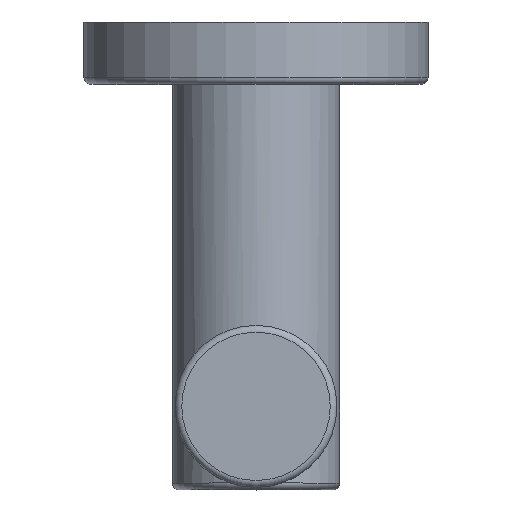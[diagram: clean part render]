
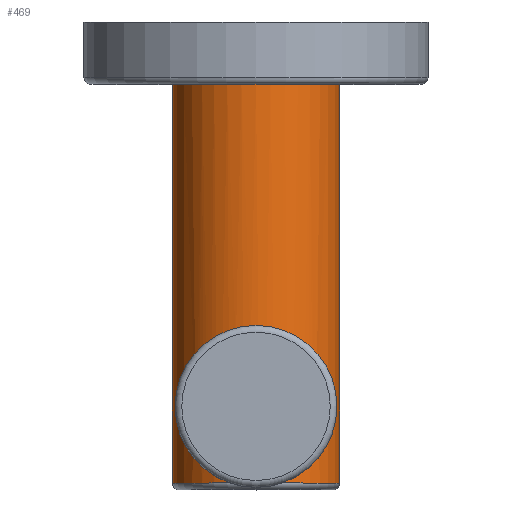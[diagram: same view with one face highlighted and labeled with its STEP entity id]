
A CAD part, top view. The second image highlights one B-rep face of the part: STEP entity #469.
In plain terms, the highlighted cylindrical face has radius 12.4 mm (diameter 24.8 mm), a full revolution.
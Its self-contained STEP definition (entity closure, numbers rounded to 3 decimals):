
#97=B_SPLINE_CURVE_WITH_KNOTS('',3,(#2220,#2221,#2222,#2223,#2224,#2225,
#2226,#2227,#2228,#2229,#2230,#2231,#2232,#2233,#2234,#2235,#2236,#2237,
#2238,#2239,#2240,#2241,#2242,#2243,#2244,#2245),.UNSPECIFIED.,.T.,.F.,(2,
2,2,2,2,2,2,2,2,2,2,2,2,2,2),(-0.062,0.,0.125,0.188,
0.25,0.375,0.438,0.5,
0.563,0.625,0.75,0.875,
0.938,1.,1.125),.UNSPECIFIED.);
#469=ADVANCED_FACE('',(#534,#535,#536),#500,.T.);
#500=CYLINDRICAL_SURFACE('',#1472,12.4);
#534=FACE_BOUND('',#632,.T.);
#535=FACE_BOUND('',#633,.T.);
#536=FACE_BOUND('',#634,.T.);
#632=EDGE_LOOP('',(#964));
#633=EDGE_LOOP('',(#965));
#634=EDGE_LOOP('',(#966));
#964=ORIENTED_EDGE('',*,*,#1242,.F.);
#965=ORIENTED_EDGE('',*,*,#1248,.F.);
#966=ORIENTED_EDGE('',*,*,#1247,.T.);
#1076=VERTEX_POINT('',#2201);
#1081=VERTEX_POINT('',#2218);
#1082=VERTEX_POINT('',#2246);
#1242=EDGE_CURVE('',#1076,#1076,#1318,.T.);
#1247=EDGE_CURVE('',#1081,#1081,#1323,.T.);
#1248=EDGE_CURVE('',#1082,#1082,#97,.T.);
#1318=CIRCLE('',#1457,12.4);
#1323=CIRCLE('',#1469,12.4);
#1457=AXIS2_PLACEMENT_3D('',#2200,#1831,#1832);
#1469=AXIS2_PLACEMENT_3D('',#2217,#1855,#1856);
#1472=AXIS2_PLACEMENT_3D('',#2248,#1861,#1862);
#1831=DIRECTION('',(0.,1.,0.));
#1832=DIRECTION('',(1.,0.,0.));
#1855=DIRECTION('',(0.,1.,0.));
#1856=DIRECTION('',(-1.,0.,0.));
#1861=DIRECTION('',(0.,1.,0.));
#1862=DIRECTION('',(1.,0.,0.));
#2200=CARTESIAN_POINT('',(629.5,29.1,-8.5));
#2201=CARTESIAN_POINT('',(641.9,29.1,-8.5));
#2217=CARTESIAN_POINT('',(629.5,-30.,-8.5));
#2218=CARTESIAN_POINT('',(617.1,-30.,-8.5));
#2220=CARTESIAN_POINT('',(620.5,-17.556,0.03));
#2221=CARTESIAN_POINT('',(620.5,-21.288,0.03));
#2222=CARTESIAN_POINT('',(621.507,-23.515,1.16));
#2223=CARTESIAN_POINT('',(623.892,-25.93,2.598));
#2224=CARTESIAN_POINT('',(624.841,-26.591,3.047));
#2225=CARTESIAN_POINT('',(627.011,-27.529,3.7));
#2226=CARTESIAN_POINT('',(628.241,-27.796,3.897));
#2227=CARTESIAN_POINT('',(631.934,-27.808,3.906));
#2228=CARTESIAN_POINT('',(634.271,-26.765,3.098));
#2229=CARTESIAN_POINT('',(636.683,-24.34,1.651));
#2230=CARTESIAN_POINT('',(637.321,-23.403,1.142));
#2231=CARTESIAN_POINT('',(638.233,-21.265,0.324));
#2232=CARTESIAN_POINT('',(638.497,-20.056,0.033));
#2233=CARTESIAN_POINT('',(638.503,-17.592,0.026));
#2234=CARTESIAN_POINT('',(638.242,-16.367,0.315));
#2235=CARTESIAN_POINT('',(637.342,-14.234,1.125));
#2236=CARTESIAN_POINT('',(636.7,-13.283,1.638));
#2237=CARTESIAN_POINT('',(634.321,-10.872,3.074));
#2238=CARTESIAN_POINT('',(632.013,-9.808,3.895));
#2239=CARTESIAN_POINT('',(627.042,-9.793,3.905));
#2240=CARTESIAN_POINT('',(624.719,-10.843,3.093));
#2241=CARTESIAN_POINT('',(622.315,-13.262,1.649));
#2242=CARTESIAN_POINT('',(621.679,-14.196,1.142));
#2243=CARTESIAN_POINT('',(620.762,-16.348,0.32));
#2244=CARTESIAN_POINT('',(620.5,-17.556,0.03));
#2245=CARTESIAN_POINT('',(620.5,-21.288,0.03));
#2246=CARTESIAN_POINT('',(620.5,-18.8,0.03));
#2248=CARTESIAN_POINT('',(629.5,-31.,-8.5));
